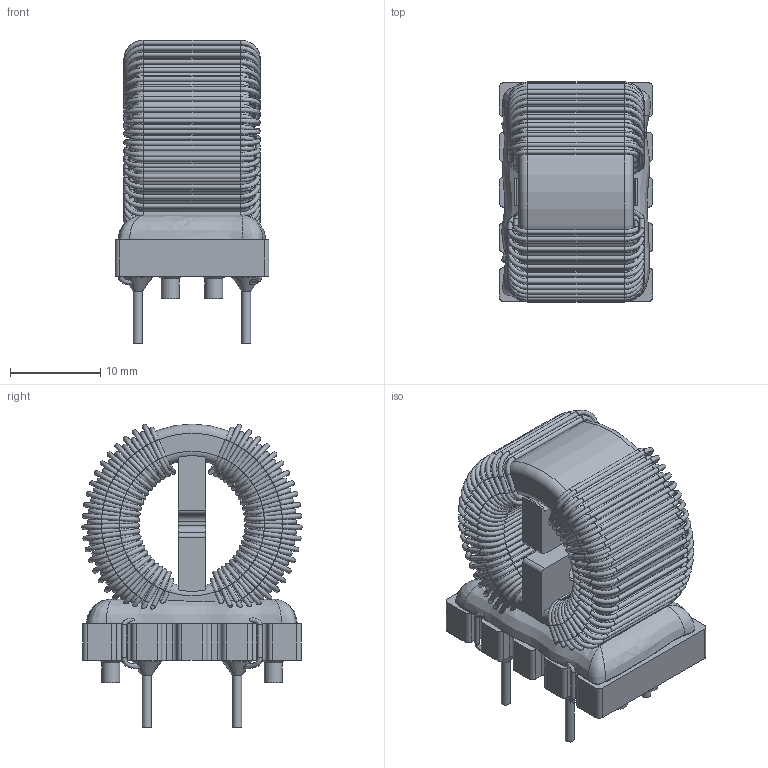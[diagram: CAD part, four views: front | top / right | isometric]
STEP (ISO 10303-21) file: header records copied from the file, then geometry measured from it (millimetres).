
FILE_DESCRIPTION(/* description */ ('Unknown'),/* implementation_level */ '2;1');
FILE_NAME(/* name */ 'L_Wurth_WE-CMB-L',/* time_stamp */ '2024-10-11T13:53:28+08:00',/* author */ ('Unknown'),/* organization */ ('Unknown'),/* preprocessor_version */ 'ST-DEVELOPER v16.7',/* originating_system */ 'Solid Edge',/* authorisation */ 'Unknown');
FILE_SCHEMA (('AUTOMOTIVE_DESIGN {1 0 10303 214 3 1 1}'));
Length unit declared in the file: millimetre
Products named in the file (2): L_Wurth_WE-CMB-L
Assembly tree (1 placements, depth 2):
  L_Wurth_WE-CMB-L
    L_Wurth_WE-CMB-L
Bounding box: 17 x 24.35 x 33.6 mm (x, y, z)
Volume: 6111.5 mm3; surface area: 10449.4 mm2
Topology: 10 solids, 10 shells, 1046 faces, 2275 edges, 1259 vertices
Faces by surface type: cylinder 481, bspline 234, torus 214, plane 105, cone 12
Full cylindrical faces by diameter (mm): 0.499 x2, 0.5 x392, 1 x4, 2 x4, 14 x1, 22 x1
Entity records: 72479 total; most frequent: CARTESIAN_POINT 46980, DIRECTION 3867, ORIENTED_EDGE 2768, EDGE_LOOP 1936, FACE_BOUND 1936, AXIS2_PLACEMENT_3D 1800, EDGE_CURVE 1384, VERTEX_POINT 1210
